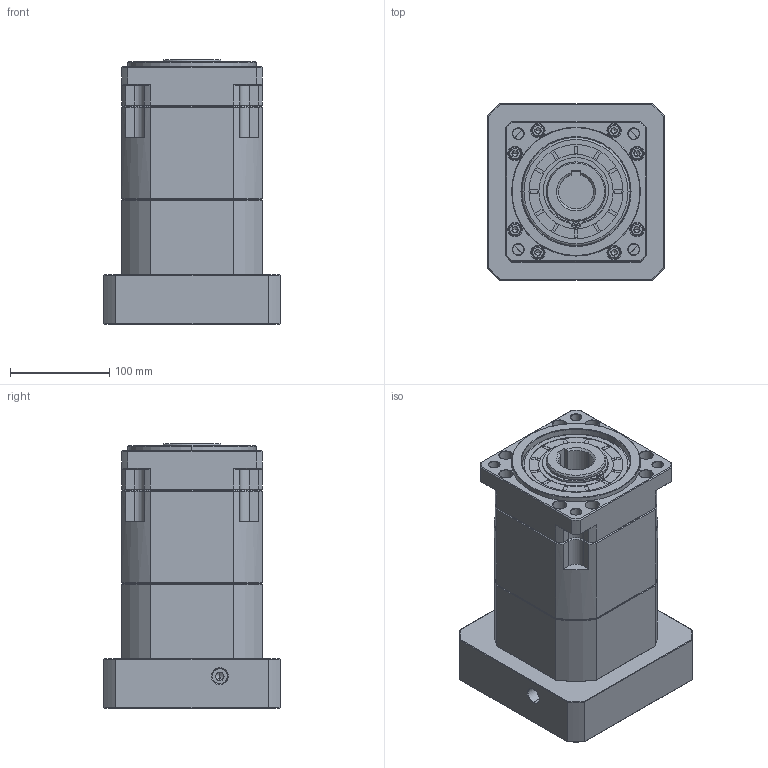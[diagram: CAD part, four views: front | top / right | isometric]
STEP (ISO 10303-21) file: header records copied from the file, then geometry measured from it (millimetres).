
FILE_DESCRIPTION (( 'STEP AP214' ), '1' );
FILE_NAME ('ZB142A-K35-L2-42-114.3-200-M12.step', '2023-03-18T06:15:46', ( '' ), ( '' ), 'SwSTEP 2.0', 'SolidWorks 2016', '' );
FILE_SCHEMA (( 'AUTOMOTIVE_DESIGN' ));
Length unit declared in the file: millimetre
Products named in the file (1): ZB142A-K35-L2-42-114.3-200-M12
Bounding box: 178 x 178 x 267.2 mm (x, y, z)
Volume: 4687863.4 mm3; surface area: 387819.1 mm2
Topology: 6 solids, 6 shells, 2130 faces, 5492 edges, 3468 vertices
Faces by surface type: plane 1006, cylinder 415, cone 385, bspline 304, torus 20
Entity records: 110890 total; most frequent: CARTESIAN_POINT 37975, ORIENTED_EDGE 10928, DIRECTION 9199, EDGE_CURVE 5464, VERTEX_POINT 3468, LINE 3463, VECTOR 3463, AXIS2_PLACEMENT_3D 2868
